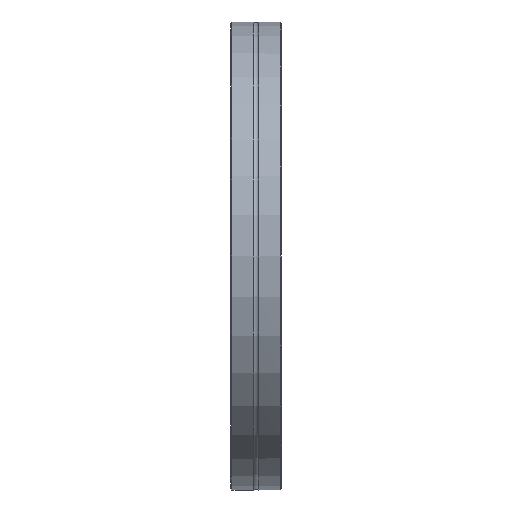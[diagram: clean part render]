
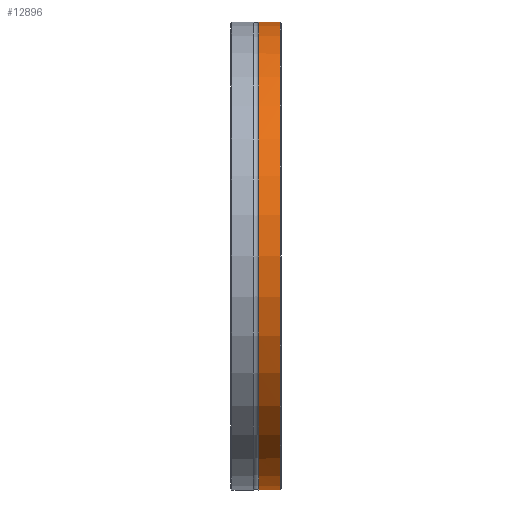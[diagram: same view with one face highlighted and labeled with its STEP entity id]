
A CAD part, front view. The second image highlights one B-rep face of the part: STEP entity #12896.
In plain terms, the highlighted cylindrical face has radius 101.25 mm (diameter 202.5 mm), a full revolution.
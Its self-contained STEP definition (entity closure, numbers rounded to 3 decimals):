
#12818=CARTESIAN_POINT('',(-0.6,101.244,-1.077));
#12819=VERTEX_POINT('',#12818);
#12840=CARTESIAN_POINT('',(-0.6,101.244,1.077));
#12841=VERTEX_POINT('',#12840);
#12851=CARTESIAN_POINT('',(-0.6,0.0,0.0));
#12852=DIRECTION('',(1.0,0.0,0.0));
#12853=DIRECTION('',(0.0,-1.0,0.0));
#12854=AXIS2_PLACEMENT_3D('',#12851,#12852,#12853);
#12855=CIRCLE('',#12854,101.25);
#12856=EDGE_CURVE('',#12841,#12819,#12855,.T.);
#12861=CARTESIAN_POINT('',(-4.9,0.0,0.0));
#12862=DIRECTION('',(1.0,0.0,0.0));
#12863=DIRECTION('',(0.0,1.0,0.0));
#12864=AXIS2_PLACEMENT_3D('',#12861,#12862,#12863);
#12865=CYLINDRICAL_SURFACE('',#12864,101.25);
#12866=ORIENTED_EDGE('',*,*,#12856,.F.);
#12867=CARTESIAN_POINT('',(-0.8,101.25,0.));
#12868=VERTEX_POINT('',#12867);
#12869=CARTESIAN_POINT('',(-0.6,101.244,1.077));
#12870=CARTESIAN_POINT('',(-0.734,101.248,0.728));
#12871=CARTESIAN_POINT('',(-0.8,101.25,0.353));
#12872=CARTESIAN_POINT('',(-0.8,101.25,0.));
#12873=B_SPLINE_CURVE_WITH_KNOTS('',3,(#12869,#12870,#12871,#12872),.UNSPECIFIED.,.F.,.U.,(4,4),(1.25,1.356),.UNSPECIFIED.);
#12874=EDGE_CURVE('',#12841,#12868,#12873,.T.);
#12875=ORIENTED_EDGE('',*,*,#12874,.T.);
#12876=CARTESIAN_POINT('',(-0.8,101.25,0.));
#12877=CARTESIAN_POINT('',(-0.8,101.25,-0.353));
#12878=CARTESIAN_POINT('',(-0.734,101.248,-0.728));
#12879=CARTESIAN_POINT('',(-0.6,101.244,-1.077));
#12880=B_SPLINE_CURVE_WITH_KNOTS('',3,(#12876,#12877,#12878,#12879),.UNSPECIFIED.,.F.,.U.,(4,4),(1.356,1.462),.UNSPECIFIED.);
#12881=EDGE_CURVE('',#12868,#12819,#12880,.T.);
#12882=ORIENTED_EDGE('',*,*,#12881,.T.);
#12883=EDGE_LOOP('',(#12866,#12875,#12882));
#12884=FACE_OUTER_BOUND('',#12883,.T.);
#12885=CARTESIAN_POINT('',(-9.8,101.25,0.0));
#12886=VERTEX_POINT('',#12885);
#12887=CARTESIAN_POINT('',(-9.8,0.0,0.0));
#12888=DIRECTION('',(1.0,0.0,0.0));
#12889=DIRECTION('',(0.0,1.0,0.0));
#12890=AXIS2_PLACEMENT_3D('',#12887,#12888,#12889);
#12891=CIRCLE('',#12890,101.25);
#12892=EDGE_CURVE('',#12886,#12886,#12891,.T.);
#12893=ORIENTED_EDGE('',*,*,#12892,.T.);
#12894=EDGE_LOOP('',(#12893));
#12895=FACE_BOUND('',#12894,.T.);
#12896=ADVANCED_FACE('',(#12884,#12895),#12865,.T.);
